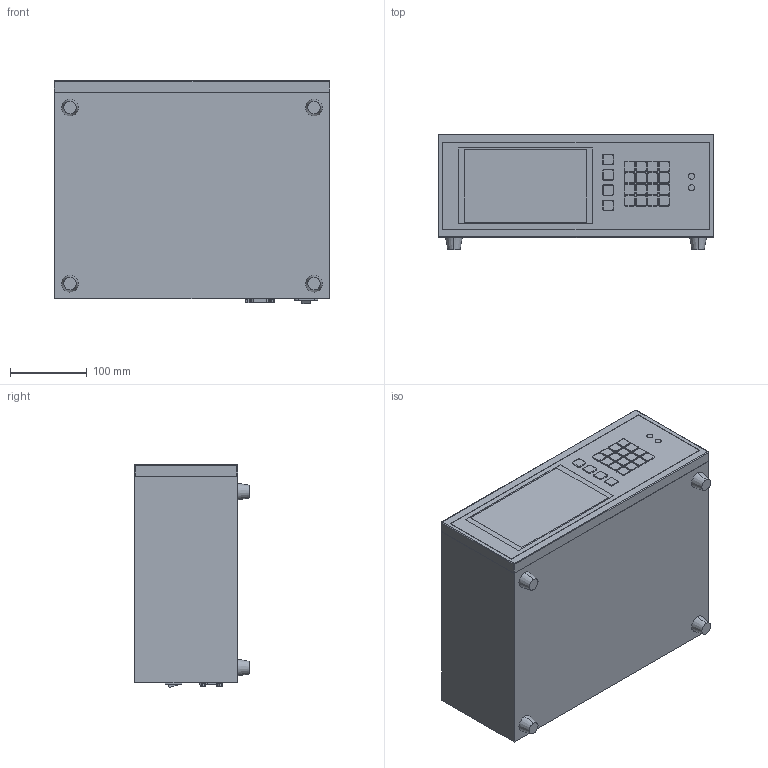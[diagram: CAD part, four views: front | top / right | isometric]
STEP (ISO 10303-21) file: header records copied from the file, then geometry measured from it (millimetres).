
FILE_DESCRIPTION (( 'STEP AP214' ), '1' );
FILE_NAME ('Assy_ML-40PT_exterior.STEP', '2015-10-07T10:52:56', ( 'ysgoodman' ), ( '' ), 'SwSTEP 2.0', 'SolidWorks 2014', '' );
FILE_SCHEMA (( 'AUTOMOTIVE_DESIGN' ));
Length unit declared in the file: millimetre
Products named in the file (1): Assy_ML-40PT_exterior
Bounding box: 360 x 150.5 x 291.6 mm (x, y, z)
Surface area: 386058.6 mm2 (no closed solid volume)
Topology: 0 solids, 13 shells, 491 faces, 1326 edges, 830 vertices
Faces by surface type: plane 189, cylinder 184, torus 88, cone 26, sphere 4
Entity records: 20539 total; most frequent: DIRECTION 2797, CARTESIAN_POINT 2746, ORIENTED_EDGE 2292, EDGE_CURVE 1322, AXIS2_PLACEMENT_3D 1017, VERTEX_POINT 830, LINE 763, VECTOR 763
